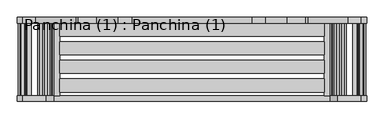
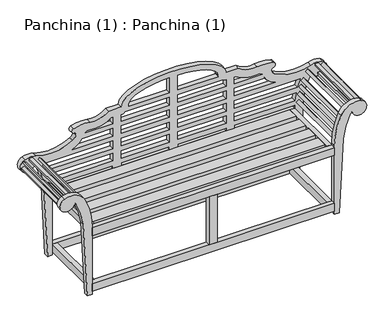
"""IFC4 building model written with IfcOpenShell, lengths in millimetres: furniture geometry, Panchina (1) : Panchina (1)."""

from ifc_helpers import new_model, si_unit, point, frame, frame_2d, origin, place, context, project, spatial, polyline, circle_curve, ellipse_curve, trimmed, segment, composite_curve, outline, extrude, source, transform, mapped, element, save
from ifc_brep_helpers import plane_surface, cylinder_surface, revolved_surface, extruded_surface, advanced_brep


def panchina_1_panchina_1_e30cd0fb(model_context):
    return source(origin(), model_context, "Body", "SolidModel", [
        advanced_brep(
        [(793.8601856, 390.0, 448.2453923), (793.8601856, 420.0, 448.2453923), (793.8601856, 420.0, 469.4749874), (793.8601856, 390.0, 469.4749874), (-793.8601856, 420.0, 448.2453923), (-793.8601856, 390.0, 448.2453923), (-793.8601856, 390.0, 469.4749874), (-793.8601856, 420.0, 469.4749874), (-371.0159047, 390.0, 430.0), (-321.0159047, 390.0, 430.0), (-321.0159047, 390.0, 448.2453923), (-25.0, 390.0, 448.2453923), (-25.0, 390.0, 430.0), (25.0, 390.0, 430.0), (25.0, 390.0, 448.2453923), (321.0159047, 390.0, 448.2453923), (321.0159047, 390.0, 430.0), (371.0159047, 390.0, 430.0), (371.0159047, 390.0, 448.2453923), (740.0804812, 390.0, 448.2453923), (740.0, 390.0, 440.0), (740.0, 390.0, 0.0), (769.2560441, 390.0, 0.0), (792.7475897, 390.0, 448.2453923), (836.8567585, 390.0, 614.4348617), (852.3402891, 390.0, 614.093414), (918.8909899, 390.0, 597.3326879), (907.4603107, 390.0, 674.4897724), (838.858595, 390.0, 674.5437109), (616.3289215, 390.0, 697.0775652), (597.5817172, 390.0, 725.1983716), (608.0495383, 390.0, 739.436241), (610.3405663, 390.0, 770.9960176), (510.0357041, 390.0, 778.0597403), (396.0159047, 390.0, 809.6116281), (321.0159047, 390.0, 809.6116281), (-321.0159047, 390.0, 809.6116281), (-396.0159047, 390.0, 809.6116281), (-510.0357041, 390.0, 778.0597403), (-610.3405663, 390.0, 770.9960176), (-608.0495383, 390.0, 739.436241), (-597.5817172, 390.0, 725.1983716), (-616.3289215, 390.0, 697.0775652), (-838.858595, 390.0, 674.5437109), (-907.4603107, 390.0, 674.4897724), (-918.8909899, 390.0, 597.3326879), (-852.3402891, 390.0, 614.093414), (-836.8567585, 390.0, 614.4348617), (-792.7475897, 390.0, 448.2453923), (-769.2560441, 390.0, 0.0), (-740.0, 390.0, 0.0), (-740.0, 390.0, 440.0), (-740.0804812, 390.0, 448.2453923), (-371.0159047, 390.0, 448.2453923), (-620.4793219, 390.0, 638.2453923), (-590.3558182, 390.0, 654.3528896), (-558.0560611, 390.0, 688.2453923), (-371.0159047, 390.0, 688.2453923), (-371.0159047, 390.0, 638.2453923), (-25.0, 390.0, 638.2453923), (-321.0159047, 390.0, 638.2453923), (-321.0159047, 390.0, 688.2453923), (-25.0, 390.0, 688.2453923), (321.0159047, 390.0, 638.2453923), (25.0, 390.0, 638.2453923), (25.0, 390.0, 688.2453923), (321.0159047, 390.0, 688.2453923), (590.3558182, 390.0, 654.3528896), (620.4793219, 390.0, 638.2453923), (371.0159047, 390.0, 638.2453923), (371.0159047, 390.0, 688.2453923), (556.8264563, 390.0, 688.2453923), (556.8264563, 390.0, 690.5877509), (756.887606, 390.0, 558.2453923), (371.0159047, 390.0, 558.2453923), (371.0159047, 390.0, 608.2453923), (774.9515352, 390.0, 608.2453923), (321.0159047, 390.0, 558.2453923), (25.0, 390.0, 558.2453923), (25.0, 390.0, 608.2453923), (321.0159047, 390.0, 608.2453923), (-25.0, 390.0, 558.2453923), (-321.0159047, 390.0, 558.2453923), (-321.0159047, 390.0, 608.2453923), (-25.0, 390.0, 608.2453923), (-371.0159047, 390.0, 558.2453923), (-756.887606, 390.0, 558.2453923), (-774.9515352, 390.0, 608.2453923), (-371.0159047, 390.0, 608.2453923), (741.734928, 390.0, 478.2453923), (371.0159047, 390.0, 478.2453923), (371.0159047, 390.0, 528.2453923), (749.3203531, 390.0, 528.2453923), (321.0159047, 390.0, 478.2453923), (25.0, 390.0, 478.2453923), (25.0, 390.0, 528.2453923), (321.0159047, 390.0, 528.2453923), (-25.0, 390.0, 478.2453923), (-321.0159047, 390.0, 478.2453923), (-321.0159047, 390.0, 528.2453923), (-25.0, 390.0, 528.2453923), (-371.0159047, 390.0, 478.2453923), (-741.734928, 390.0, 478.2453923), (-749.3203531, 390.0, 528.2453923), (-371.0159047, 390.0, 528.2453923), (371.0159047, 390.0, 759.6116281), (379.391863, 390.0, 759.6116281), (509.9829469, 390.0, 727.6014924), (540.591796, 390.0, 718.2453923), (371.0159047, 390.0, 718.2453923), (25.0, 390.0, 718.2453923), (25.0, 390.0, 768.2453923), (292.9297063, 390.0, 768.2453923), (321.0159047, 390.0, 759.6116281), (321.0159047, 390.0, 718.2453923), (25.0, 390.0, 894.2092304), (271.0159047, 390.0, 809.6116281), (272.3249539, 390.0, 798.2453923), (25.0, 390.0, 798.2453923), (-321.0159047, 390.0, 759.6116281), (-293.8294647, 390.0, 768.2453923), (-25.0, 390.0, 768.2453923), (-25.0, 390.0, 718.2453923), (-321.0159047, 390.0, 718.2453923), (-273.9840953, 390.0, 809.6116281), (-25.0, 390.0, 894.2945325), (-25.0, 390.0, 798.2453923), (-274.6664568, 390.0, 798.2453923), (-509.9829469, 390.0, 727.6014924), (-379.391863, 390.0, 759.6116281), (-371.0159047, 390.0, 759.6116281), (-371.0159047, 390.0, 718.2453923), (-540.591796, 390.0, 718.2453923), (792.7475897, 420.0, 448.2453923), (-792.7475897, 420.0, 448.2453923), (-740.0804812, 420.0, 448.2453923), (-371.0159047, 420.0, 448.2453923), (-321.0159047, 420.0, 448.2453923), (-25.0, 420.0, 448.2453923), (25.0, 420.0, 448.2453923), (321.0159047, 420.0, 448.2453923), (371.0159047, 420.0, 448.2453923), (740.0804812, 420.0, 448.2453923), (-740.0, 420.0, 440.0), (-740.0, 420.0, 0.0), (-769.2560441, 420.0, 0.0), (-836.8567585, 420.0, 614.4348617), (-852.3402891, 420.0, 614.093414), (-918.8909899, 420.0, 597.3326879), (-907.4603107, 420.0, 674.4897724), (-838.858595, 420.0, 674.5437109), (-616.3289215, 420.0, 697.0775652), (-597.5817172, 420.0, 725.1983716), (-608.0495383, 420.0, 739.436241), (-610.3405663, 420.0, 770.9960176), (-510.0357041, 420.0, 778.0597403), (-396.0159047, 420.0, 809.6116281), (-321.0159047, 420.0, 809.6116281), (321.0159047, 420.0, 809.6116281), (396.0159047, 420.0, 809.6116281), (510.0357041, 420.0, 778.0597403), (610.3405663, 420.0, 770.9960176), (608.0495383, 420.0, 739.436241), (597.5817172, 420.0, 725.1983716), (616.3289215, 420.0, 697.0775652), (838.858595, 420.0, 674.5437109), (907.4603107, 420.0, 674.4897724), (918.8909899, 420.0, 597.3326879), (852.3402891, 420.0, 614.093414), (836.8567585, 420.0, 614.4348617), (769.2560441, 420.0, 0.0), (740.0, 420.0, 0.0), (740.0, 420.0, 440.0), (371.0159047, 420.0, 430.0), (321.0159047, 420.0, 430.0), (25.0, 420.0, 430.0), (-25.0, 420.0, 430.0), (-321.0159047, 420.0, 430.0), (-371.0159047, 420.0, 430.0), (620.4793219, 420.0, 638.2453923), (590.3558182, 420.0, 654.3528896), (556.8264563, 420.0, 690.5877509), (556.8264563, 420.0, 688.2453923), (371.0159047, 420.0, 688.2453923), (371.0159047, 420.0, 638.2453923), (25.0, 420.0, 638.2453923), (321.0159047, 420.0, 638.2453923), (321.0159047, 420.0, 688.2453923), (25.0, 420.0, 688.2453923), (-321.0159047, 420.0, 638.2453923), (-25.0, 420.0, 638.2453923), (-25.0, 420.0, 688.2453923), (-321.0159047, 420.0, 688.2453923), (-590.3558182, 420.0, 654.3528896), (-620.4793219, 420.0, 638.2453923), (-371.0159047, 420.0, 638.2453923), (-371.0159047, 420.0, 688.2453923), (-558.0560611, 420.0, 688.2453923), (371.0159047, 420.0, 558.2453923), (756.887606, 420.0, 558.2453923), (774.9515352, 420.0, 608.2453923), (371.0159047, 420.0, 608.2453923), (25.0, 420.0, 558.2453923), (321.0159047, 420.0, 558.2453923), (321.0159047, 420.0, 608.2453923), (25.0, 420.0, 608.2453923), (-321.0159047, 420.0, 558.2453923), (-25.0, 420.0, 558.2453923), (-25.0, 420.0, 608.2453923), (-321.0159047, 420.0, 608.2453923), (-756.887606, 420.0, 558.2453923), (-371.0159047, 420.0, 558.2453923), (-371.0159047, 420.0, 608.2453923), (-774.9515352, 420.0, 608.2453923), (371.0159047, 420.0, 478.2453923), (741.734928, 420.0, 478.2453923), (749.3203531, 420.0, 528.2453923), (371.0159047, 420.0, 528.2453923), (25.0, 420.0, 478.2453923), (321.0159047, 420.0, 478.2453923), (321.0159047, 420.0, 528.2453923), (25.0, 420.0, 528.2453923), (-321.0159047, 420.0, 478.2453923), (-25.0, 420.0, 478.2453923), (-25.0, 420.0, 528.2453923), (-321.0159047, 420.0, 528.2453923), (-741.734928, 420.0, 478.2453923), (-371.0159047, 420.0, 478.2453923), (-371.0159047, 420.0, 528.2453923), (-749.3203531, 420.0, 528.2453923), (-371.0159047, 420.0, 759.6116281), (-379.391863, 420.0, 759.6116281), (-509.9829469, 420.0, 727.6014924), (-540.591796, 420.0, 718.2453923), (-371.0159047, 420.0, 718.2453923), (-25.0, 420.0, 718.2453923), (-25.0, 420.0, 768.2453923), (-293.8294647, 420.0, 768.2453923), (-321.0159047, 420.0, 759.6116281), (-321.0159047, 420.0, 718.2453923), (-25.0, 420.0, 894.2945325), (-273.9840953, 420.0, 809.6116281), (-274.6664568, 420.0, 798.2453923), (-25.0, 420.0, 798.2453923), (321.0159047, 420.0, 759.6116281), (292.9297063, 420.0, 768.2453923), (25.0, 420.0, 768.2453923), (25.0, 420.0, 718.2453923), (321.0159047, 420.0, 718.2453923), (271.0159047, 420.0, 809.6116281), (25.0, 420.0, 894.2092304), (25.0, 420.0, 798.2453923), (272.3249539, 420.0, 798.2453923), (509.9829469, 420.0, 727.6014924), (379.391863, 420.0, 759.6116281), (371.0159047, 420.0, 759.6116281), (371.0159047, 420.0, 718.2453923), (540.591796, 420.0, 718.2453923)],
        [
            (0, 1),
            (1, 2),
            (2, 3),
            (3, 0),
            (4, 5),
            (5, 6),
            (6, 7),
            (7, 4),
            (8, 9),
            (9, 10),
            (10, 11),
            (11, 12),
            (12, 13),
            (13, 14),
            (14, 15),
            (15, 16),
            (16, 17),
            (17, 18),
            (18, 19),
            (19, 20, circle_curve(frame((1162.4152337, 390.0, 440.0), z_axis=(0.0, -1.0, 0.0), x_axis=(1.0, 0.0, 0.0)), 422.4152337)),
            (20, 21),
            (21, 22),
            (22, 23),
            (23, 0),
            (3, 24, circle_curve(frame((1186.2285384, 390.0, 431.9510913), z_axis=(0.0, 1.0, 0.0), x_axis=(-1.0, 0.0, 0.0)), 394.1585557)),
            (24, 25, circle_curve(frame((844.5140888, 390.0, 610.4352871), z_axis=(0.0, 1.0, 0.0), x_axis=(1.0, 0.0, 0.0)), 8.6389412)),
            (25, 26, circle_curve(frame((892.4476381, 390.0, 632.8404135), z_axis=(0.0, -1.0, 0.0), x_axis=(-1.0, 0.0, 0.0)), 44.2724455)),
            (26, 27, circle_curve(frame((892.4476381, 390.0, 632.8404135), z_axis=(0.0, -1.0, 0.0), x_axis=(-1.0, 0.0, 0.0)), 44.2724455)),
            (27, 28, circle_curve(frame((873.0844478, 390.0, 579.1214999), z_axis=(0.0, -1.0, 0.0), x_axis=(-1.0, 0.0, 0.0)), 101.3745893)),
            (28, 29, circle_curve(frame((751.2005313, 390.0, 918.9357586), z_axis=(0.0, 1.0, 0.0), x_axis=(-1.0, 0.0, 0.0)), 259.637072)),
            (29, 30, circle_curve(frame((637.0890584, 390.0, 731.2271278), z_axis=(0.0, 1.0, 0.0), x_axis=(-1.0, 0.0, 0.0)), 39.9646833)),
            (30, 31, circle_curve(frame((609.9345625, 390.0, 727.0833957), z_axis=(0.0, 1.0, 0.0), x_axis=(-1.0, 0.0, 0.0)), 12.4958434)),
            (31, 32, circle_curve(frame((605.6017477, 390.0, 755.4769791), z_axis=(0.0, -1.0, 0.0), x_axis=(-1.0, 0.0, 0.0)), 16.2264278)),
            (32, 33, circle_curve(frame((544.8313494, 390.0, 556.461521), z_axis=(0.0, -1.0, 0.0), x_axis=(-1.0, 0.0, 0.0)), 224.3134141)),
            (33, 34, circle_curve(frame((487.8169484, 390.0, 919.5612602), z_axis=(0.0, 1.0, 0.0), x_axis=(-1.0, 0.0, 0.0)), 143.2353072)),
            (34, 35),
            (35, 36, ellipse_curve(frame((0.0, 390.0, 809.6116281), z_axis=(0.0, -1.0, 0.0), x_axis=(1.0, 0.0, 0.0)), 321.0159047, 120.0)),
            (36, 37),
            (37, 38, circle_curve(frame((-487.8169484, 390.0, 919.5612602), z_axis=(0.0, 1.0, 0.0), x_axis=(1.0, 0.0, 0.0)), 143.2353072)),
            (38, 39, circle_curve(frame((-544.8313494, 390.0, 556.461521), z_axis=(0.0, -1.0, 0.0), x_axis=(1.0, 0.0, 0.0)), 224.3134141)),
            (39, 40, circle_curve(frame((-605.6017477, 390.0, 755.4769791), z_axis=(0.0, -1.0, 0.0), x_axis=(1.0, 0.0, 0.0)), 16.2264278)),
            (40, 41, circle_curve(frame((-609.9345625, 390.0, 727.0833957), z_axis=(0.0, 1.0, 0.0), x_axis=(1.0, 0.0, 0.0)), 12.4958434)),
            (41, 42, circle_curve(frame((-637.0890584, 390.0, 731.2271278), z_axis=(0.0, 1.0, 0.0), x_axis=(1.0, 0.0, 0.0)), 39.9646833)),
            (42, 43, circle_curve(frame((-751.2005313, 390.0, 918.9357586), z_axis=(0.0, 1.0, 0.0), x_axis=(1.0, 0.0, 0.0)), 259.637072)),
            (43, 44, circle_curve(frame((-873.0844478, 390.0, 579.1214999), z_axis=(0.0, -1.0, 0.0), x_axis=(1.0, 0.0, 0.0)), 101.3745893)),
            (44, 45, circle_curve(frame((-892.4476381, 390.0, 632.8404135), z_axis=(0.0, -1.0, 0.0), x_axis=(1.0, 0.0, 0.0)), 44.2724455)),
            (45, 46, circle_curve(frame((-892.4476381, 390.0, 632.8404135), z_axis=(0.0, -1.0, 0.0), x_axis=(1.0, 0.0, 0.0)), 44.2724455)),
            (46, 47, circle_curve(frame((-844.5140888, 390.0, 610.4352871), z_axis=(0.0, 1.0, 0.0), x_axis=(1.0, 0.0, 0.0)), 8.6389412)),
            (47, 6, circle_curve(frame((-1186.2285384, 390.0, 431.9510913), z_axis=(0.0, 1.0, 0.0), x_axis=(1.0, 0.0, 0.0)), 394.1585557)),
            (5, 48),
            (48, 49),
            (49, 50),
            (50, 51),
            (51, 52, circle_curve(frame((-1162.4152337, 390.0, 440.0), z_axis=(0.0, -1.0, 0.0), x_axis=(1.0, 0.0, 0.0)), 422.4152337)),
            (52, 53),
            (53, 8),
            (54, 55, circle_curve(frame((-751.2005313, 390.0, 918.9357586), z_axis=(0.0, -1.0, 0.0), x_axis=(1.0, 0.0, 0.0)), 309.637072)),
            (55, 56, circle_curve(frame((-637.0890584, 390.0, 731.2271278), z_axis=(0.0, -1.0, 0.0), x_axis=(1.0, 0.0, 0.0)), 89.9646833)),
            (56, 57),
            (57, 58),
            (58, 54),
            (59, 60),
            (60, 61),
            (61, 62),
            (62, 59),
            (63, 64),
            (64, 65),
            (65, 66),
            (66, 63),
            (67, 68, circle_curve(frame((751.2005313, 390.0, 918.9357586), z_axis=(0.0, -1.0, 0.0), x_axis=(-1.0, 0.0, 0.0)), 309.637072)),
            (68, 69),
            (69, 70),
            (70, 71),
            (71, 72),
            (72, 67, circle_curve(frame((637.0890584, 390.0, 731.2271278), z_axis=(0.0, -1.0, 0.0), x_axis=(-1.0, 0.0, 0.0)), 89.9646833)),
            (73, 74),
            (74, 75),
            (75, 76),
            (76, 73, circle_curve(frame((1162.4152337, 390.0, 440.0), z_axis=(0.0, -1.0, 0.0), x_axis=(1.0, 0.0, 0.0)), 422.4152337)),
            (77, 78),
            (78, 79),
            (79, 80),
            (80, 77),
            (81, 82),
            (82, 83),
            (83, 84),
            (84, 81),
            (85, 86),
            (86, 87, circle_curve(frame((-1162.4152337, 390.0, 440.0), z_axis=(0.0, -1.0, 0.0), x_axis=(1.0, 0.0, 0.0)), 422.4152337)),
            (87, 88),
            (88, 85),
            (89, 90),
            (90, 91),
            (91, 92),
            (92, 89, circle_curve(frame((1162.4152337, 390.0, 440.0), z_axis=(0.0, -1.0, 0.0), x_axis=(1.0, 0.0, 0.0)), 422.4152337)),
            (93, 94),
            (94, 95),
            (95, 96),
            (96, 93),
            (97, 98),
            (98, 99),
            (99, 100),
            (100, 97),
            (101, 102),
            (102, 103, circle_curve(frame((-1162.4152337, 390.0, 440.0), z_axis=(0.0, -1.0, 0.0), x_axis=(1.0, 0.0, 0.0)), 422.4152337)),
            (103, 104),
            (104, 101),
            (105, 106),
            (106, 107, circle_curve(frame((487.8169484, 390.0, 919.5612602), z_axis=(0.0, -1.0, 0.0), x_axis=(-1.0, 0.0, 0.0)), 193.2353072)),
            (107, 108, circle_curve(frame((514.571342, 390.0, 687.865531), z_axis=(0.0, 1.0, 0.0), x_axis=(-1.0, 0.0, 0.0)), 40.0)),
            (108, 109),
            (109, 105),
            (110, 111),
            (111, 112),
            (112, 113, circle_curve(frame((321.0159047, 390.0, 809.6116281), z_axis=(0.0, -1.0, 0.0), x_axis=(1.0, 0.0, 0.0)), 50.0)),
            (113, 114),
            (114, 110),
            (115, 116, ellipse_curve(frame((-1.4840953, 390.0, 809.6116281), z_axis=(0.0, 1.0, 0.0), x_axis=(1.0, 0.0, 0.0)), 272.5, 85.0)),
            (116, 117, circle_curve(frame((321.0159047, 390.0, 809.6116281), z_axis=(0.0, -1.0, 0.0), x_axis=(1.0, 0.0, 0.0)), 50.0)),
            (117, 118),
            (118, 115),
            (119, 120, circle_curve(frame((-321.0159047, 390.0, 806.731539), z_axis=(0.0, -1.0, 0.0), x_axis=(1.0, 0.0, 0.0)), 47.1199109)),
            (120, 121),
            (121, 122),
            (122, 123),
            (123, 119),
            (124, 125, ellipse_curve(frame((-1.4840953, 390.0, 809.6116281), z_axis=(0.0, 1.0, 0.0), x_axis=(1.0, 0.0, 0.0)), 272.5, 85.0)),
            (125, 126),
            (126, 127),
            (127, 124, circle_curve(frame((-321.0159047, 390.0, 806.731539), z_axis=(0.0, -1.0, 0.0), x_axis=(1.0, 0.0, 0.0)), 47.1199109)),
            (128, 129, circle_curve(frame((-487.8169484, 390.0, 919.5612602), z_axis=(0.0, -1.0, 0.0), x_axis=(1.0, 0.0, 0.0)), 193.2353072)),
            (129, 130),
            (130, 131),
            (131, 132),
            (132, 128, circle_curve(frame((-514.571342, 390.0, 687.865531), z_axis=(0.0, 1.0, 0.0), x_axis=(1.0, 0.0, 0.0)), 40.0)),
            (23, 133),
            (133, 1),
            (4, 134),
            (134, 48),
            (52, 135),
            (135, 136),
            (136, 53),
            (10, 137),
            (137, 138),
            (138, 11),
            (14, 139),
            (139, 140),
            (140, 15),
            (18, 141),
            (141, 142),
            (142, 19),
            (143, 144),
            (144, 145),
            (145, 134),
            (7, 146, circle_curve(frame((-1186.2285384, 420.0, 431.9510913), z_axis=(0.0, -1.0, 0.0), x_axis=(1.0, 0.0, 0.0)), 394.1585557)),
            (146, 147, circle_curve(frame((-844.5140888, 420.0, 610.4352871), z_axis=(0.0, -1.0, 0.0), x_axis=(1.0, 0.0, 0.0)), 8.6389412)),
            (147, 148, circle_curve(frame((-892.4476381, 420.0, 632.8404135), z_axis=(0.0, 1.0, 0.0), x_axis=(1.0, 0.0, 0.0)), 44.2724455)),
            (148, 149, circle_curve(frame((-892.4476381, 420.0, 632.8404135), z_axis=(0.0, 1.0, 0.0), x_axis=(1.0, 0.0, 0.0)), 44.2724455)),
            (149, 150, circle_curve(frame((-873.0844478, 420.0, 579.1214999), z_axis=(0.0, 1.0, 0.0), x_axis=(1.0, 0.0, 0.0)), 101.3745893)),
            (150, 151, circle_curve(frame((-751.2005313, 420.0, 918.9357586), z_axis=(0.0, -1.0, 0.0), x_axis=(1.0, 0.0, 0.0)), 259.637072)),
            (151, 152, circle_curve(frame((-637.0890584, 420.0, 731.2271278), z_axis=(0.0, -1.0, 0.0), x_axis=(1.0, 0.0, 0.0)), 39.9646833)),
            (152, 153, circle_curve(frame((-609.9345625, 420.0, 727.0833957), z_axis=(0.0, -1.0, 0.0), x_axis=(1.0, 0.0, 0.0)), 12.4958434)),
            (153, 154, circle_curve(frame((-605.6017477, 420.0, 755.4769791), z_axis=(0.0, 1.0, 0.0), x_axis=(1.0, 0.0, 0.0)), 16.2264278)),
            (154, 155, circle_curve(frame((-544.8313494, 420.0, 556.461521), z_axis=(0.0, 1.0, 0.0), x_axis=(1.0, 0.0, 0.0)), 224.3134141)),
            (155, 156, circle_curve(frame((-487.8169484, 420.0, 919.5612602), z_axis=(0.0, -1.0, 0.0), x_axis=(1.0, 0.0, 0.0)), 143.2353072)),
            (156, 157),
            (157, 158, ellipse_curve(frame((0.0, 420.0, 809.6116281), z_axis=(0.0, 1.0, 0.0), x_axis=(1.0, 0.0, 0.0)), 321.0159047, 120.0)),
            (158, 159),
            (159, 160, circle_curve(frame((487.8169484, 420.0, 919.5612602), z_axis=(0.0, -1.0, 0.0), x_axis=(-1.0, 0.0, 0.0)), 143.2353072)),
            (160, 161, circle_curve(frame((544.8313494, 420.0, 556.461521), z_axis=(0.0, 1.0, 0.0), x_axis=(-1.0, 0.0, 0.0)), 224.3134141)),
            (161, 162, circle_curve(frame((605.6017477, 420.0, 755.4769791), z_axis=(0.0, 1.0, 0.0), x_axis=(-1.0, 0.0, 0.0)), 16.2264278)),
            (162, 163, circle_curve(frame((609.9345625, 420.0, 727.0833957), z_axis=(0.0, -1.0, 0.0), x_axis=(-1.0, 0.0, 0.0)), 12.4958434)),
            (163, 164, circle_curve(frame((637.0890584, 420.0, 731.2271278), z_axis=(0.0, -1.0, 0.0), x_axis=(-1.0, 0.0, 0.0)), 39.9646833)),
            (164, 165, circle_curve(frame((751.2005313, 420.0, 918.9357586), z_axis=(0.0, -1.0, 0.0), x_axis=(-1.0, 0.0, 0.0)), 259.637072)),
            (165, 166, circle_curve(frame((873.0844478, 420.0, 579.1214999), z_axis=(0.0, 1.0, 0.0), x_axis=(-1.0, 0.0, 0.0)), 101.3745893)),
            (166, 167, circle_curve(frame((892.4476381, 420.0, 632.8404135), z_axis=(0.0, 1.0, 0.0), x_axis=(-1.0, 0.0, 0.0)), 44.2724455)),
            (167, 168, circle_curve(frame((892.4476381, 420.0, 632.8404135), z_axis=(0.0, 1.0, 0.0), x_axis=(-1.0, 0.0, 0.0)), 44.2724455)),
            (168, 169, circle_curve(frame((844.5140888, 420.0, 610.4352871), z_axis=(0.0, -1.0, 0.0), x_axis=(1.0, 0.0, 0.0)), 8.6389412)),
            (169, 2, circle_curve(frame((1186.2285384, 420.0, 431.9510913), z_axis=(0.0, -1.0, 0.0), x_axis=(-1.0, 0.0, 0.0)), 394.1585557)),
            (133, 170),
            (170, 171),
            (171, 172),
            (172, 142, circle_curve(frame((1162.4152337, 420.0, 440.0), z_axis=(0.0, 1.0, 0.0), x_axis=(1.0, 0.0, 0.0)), 422.4152337)),
            (141, 173),
            (173, 174),
            (174, 140),
            (139, 175),
            (175, 176),
            (176, 138),
            (137, 177),
            (177, 178),
            (178, 136),
            (135, 143, circle_curve(frame((-1162.4152337, 420.0, 440.0), z_axis=(0.0, 1.0, 0.0), x_axis=(1.0, 0.0, 0.0)), 422.4152337)),
            (179, 180, circle_curve(frame((751.2005313, 420.0, 918.9357586), z_axis=(0.0, 1.0, 0.0), x_axis=(-1.0, 0.0, 0.0)), 309.637072)),
            (180, 181, circle_curve(frame((637.0890584, 420.0, 731.2271278), z_axis=(0.0, 1.0, 0.0), x_axis=(-1.0, 0.0, 0.0)), 89.9646833)),
            (181, 182),
            (182, 183),
            (183, 184),
            (184, 179),
            (185, 186),
            (186, 187),
            (187, 188),
            (188, 185),
            (189, 190),
            (190, 191),
            (191, 192),
            (192, 189),
            (193, 194, circle_curve(frame((-751.2005313, 420.0, 918.9357586), z_axis=(0.0, 1.0, 0.0), x_axis=(1.0, 0.0, 0.0)), 309.637072)),
            (194, 195),
            (195, 196),
            (196, 197),
            (197, 193, circle_curve(frame((-637.0890584, 420.0, 731.2271278), z_axis=(0.0, 1.0, 0.0), x_axis=(1.0, 0.0, 0.0)), 89.9646833)),
            (198, 199),
            (199, 200, circle_curve(frame((1162.4152337, 420.0, 440.0), z_axis=(0.0, 1.0, 0.0), x_axis=(1.0, 0.0, 0.0)), 422.4152337)),
            (200, 201),
            (201, 198),
            (202, 203),
            (203, 204),
            (204, 205),
            (205, 202),
            (206, 207),
            (207, 208),
            (208, 209),
            (209, 206),
            (210, 211),
            (211, 212),
            (212, 213),
            (213, 210, circle_curve(frame((-1162.4152337, 420.0, 440.0), z_axis=(0.0, 1.0, 0.0), x_axis=(1.0, 0.0, 0.0)), 422.4152337)),
            (214, 215),
            (215, 216, circle_curve(frame((1162.4152337, 420.0, 440.0), z_axis=(0.0, 1.0, 0.0), x_axis=(1.0, 0.0, 0.0)), 422.4152337)),
            (216, 217),
            (217, 214),
            (218, 219),
            (219, 220),
            (220, 221),
            (221, 218),
            (222, 223),
            (223, 224),
            (224, 225),
            (225, 222),
            (226, 227),
            (227, 228),
            (228, 229),
            (229, 226, circle_curve(frame((-1162.4152337, 420.0, 440.0), z_axis=(0.0, 1.0, 0.0), x_axis=(1.0, 0.0, 0.0)), 422.4152337)),
            (230, 231),
            (231, 232, circle_curve(frame((-487.8169484, 420.0, 919.5612602), z_axis=(0.0, 1.0, 0.0), x_axis=(1.0, 0.0, 0.0)), 193.2353072)),
            (232, 233, circle_curve(frame((-514.571342, 420.0, 687.865531), z_axis=(0.0, -1.0, 0.0), x_axis=(1.0, 0.0, 0.0)), 40.0)),
            (233, 234),
            (234, 230),
            (235, 236),
            (236, 237),
            (237, 238, circle_curve(frame((-321.0159047, 420.0, 806.731539), z_axis=(0.0, 1.0, 0.0), x_axis=(1.0, 0.0, 0.0)), 47.1199109)),
            (238, 239),
            (239, 235),
            (240, 241, ellipse_curve(frame((-1.4840953, 420.0, 809.6116281), z_axis=(0.0, -1.0, 0.0), x_axis=(1.0, 0.0, 0.0)), 272.5, 85.0)),
            (241, 242, circle_curve(frame((-321.0159047, 420.0, 806.731539), z_axis=(0.0, 1.0, 0.0), x_axis=(1.0, 0.0, 0.0)), 47.1199109)),
            (242, 243),
            (243, 240),
            (244, 245, circle_curve(frame((321.0159047, 420.0, 809.6116281), z_axis=(0.0, 1.0, 0.0), x_axis=(1.0, 0.0, 0.0)), 50.0)),
            (245, 246),
            (246, 247),
            (247, 248),
            (248, 244),
            (249, 250, ellipse_curve(frame((-1.4840953, 420.0, 809.6116281), z_axis=(0.0, -1.0, 0.0), x_axis=(1.0, 0.0, 0.0)), 272.5, 85.0)),
            (250, 251),
            (251, 252),
            (252, 249, circle_curve(frame((321.0159047, 420.0, 809.6116281), z_axis=(0.0, 1.0, 0.0), x_axis=(1.0, 0.0, 0.0)), 50.0)),
            (253, 254, circle_curve(frame((487.8169484, 420.0, 919.5612602), z_axis=(0.0, 1.0, 0.0), x_axis=(-1.0, 0.0, 0.0)), 193.2353072)),
            (254, 255),
            (255, 256),
            (256, 257),
            (257, 253, circle_curve(frame((514.571342, 420.0, 687.865531), z_axis=(0.0, -1.0, 0.0), x_axis=(-1.0, 0.0, 0.0)), 40.0)),
            (101, 227),
            (226, 102),
            (97, 223),
            (222, 98),
            (93, 219),
            (218, 94),
            (89, 215),
            (214, 90),
            (103, 229),
            (228, 104),
            (99, 225),
            (224, 100),
            (95, 221),
            (220, 96),
            (91, 217),
            (216, 92),
            (85, 211),
            (210, 86),
            (81, 207),
            (206, 82),
            (77, 203),
            (202, 78),
            (73, 199),
            (198, 74),
            (51, 143),
            (213, 87),
            (193, 55),
            (54, 194),
            (197, 56),
            (232, 128),
            (132, 233),
            (231, 129),
            (230, 130),
            (234, 131),
            (178, 8),
            (88, 212),
            (195, 58),
            (57, 196),
            (177, 9),
            (238, 119),
            (123, 239),
            (209, 83),
            (60, 189),
            (192, 61),
            (237, 120),
            (241, 124),
            (127, 242),
            (240, 125),
            (243, 126),
            (176, 12),
            (84, 208),
            (190, 59),
            (62, 191),
            (235, 122),
            (121, 236),
            (175, 13),
            (250, 115),
            (118, 251),
            (205, 79),
            (64, 185),
            (188, 65),
            (110, 247),
            (246, 111),
            (249, 116),
            (252, 117),
            (244, 113),
            (112, 245),
            (248, 114),
            (174, 16),
            (80, 204),
            (186, 63),
            (66, 187),
            (173, 17),
            (255, 105),
            (109, 256),
            (201, 75),
            (69, 184),
            (183, 70),
            (254, 106),
            (253, 107),
            (257, 108),
            (180, 67),
            (72, 181),
            (179, 68),
            (172, 20),
            (76, 200),
            (171, 21),
            (170, 22),
            (169, 24),
            (168, 25),
            (167, 26),
            (166, 27),
            (165, 28),
            (164, 29),
            (163, 30),
            (162, 31),
            (161, 32),
            (160, 33),
            (159, 34),
            (158, 35),
            (157, 36),
            (156, 37),
            (155, 38),
            (154, 39),
            (153, 40),
            (152, 41),
            (151, 42),
            (150, 43),
            (149, 44),
            (148, 45),
            (147, 46),
            (146, 47),
            (145, 49),
            (144, 50),
            (71, 182),
        ],
        [
            plane_surface(frame((793.8601856, 390.0, 434.805814), z_axis=(1.0, 0.0, 0.0), x_axis=(0.0, 0.0, -1.0))),
            plane_surface(frame((-793.8601856, 390.0, 434.805814), z_axis=(-1.0, 0.0, 0.0), x_axis=(0.0, 0.0, 1.0))),
            plane_surface(frame((793.8601856, 390.0, 478.2453923), z_axis=(0.0, -1.0, 0.0), x_axis=(-1.0, 0.0, 0.0))),
            plane_surface(frame((793.8601856, 390.0, 448.2453923), z_axis=(0.0, 0.0, -1.0), x_axis=(-1.0, 0.0, 0.0))),
            plane_surface(frame((793.8601856, 420.0, 448.2453923), z_axis=(0.0, 1.0, 0.0), x_axis=(-1.0, 0.0, 0.0))),
            plane_surface(frame((793.8601856, 420.0, 478.2453923), z_axis=(0.0, 0.0, 1.0), x_axis=(-1.0, 0.0, 0.0))),
            plane_surface(frame((793.8601856, 390.0, 528.2453923), z_axis=(0.0, 0.0, -1.0), x_axis=(-1.0, 0.0, 0.0))),
            plane_surface(frame((793.8601856, 420.0, 558.2453923), z_axis=(0.0, 0.0, 1.0), x_axis=(-1.0, 0.0, 0.0))),
            cylinder_surface(frame((-1162.4152337, 420.0, 440.0), z_axis=(0.0, -1.0, 0.0), x_axis=(1.0, 0.0, 0.0)), 422.4152337),
            cylinder_surface(frame((-751.2005313, 420.0, 918.9357586), z_axis=(0.0, -1.0, 0.0), x_axis=(1.0, 0.0, 0.0)), 309.637072),
            cylinder_surface(frame((-637.0890584, 420.0, 731.2271278), z_axis=(0.0, -1.0, 0.0), x_axis=(1.0, 0.0, 0.0)), 89.9646833),
            revolved_surface(polyline([(-474.57134199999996, 420.0, 687.865531), (-474.57134199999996, 390.0, 687.865531)]), (-514.571342, 420.0, 687.865531), (0.0, 1.0, 0.0)),
            cylinder_surface(frame((-487.8169484, 420.0, 919.5612602), z_axis=(0.0, -1.0, 0.0), x_axis=(1.0, 0.0, 0.0)), 193.2353072),
            plane_surface(frame((-379.391863, 390.0, 759.6116281), z_axis=(0.0, 0.0, -1.0), x_axis=(0.0, 1.0, 0.0))),
            plane_surface(frame((-371.0159047, 390.0, 759.6116281), z_axis=(-1.0, 0.0, 0.0), x_axis=(0.0, 1.0, 0.0))),
            plane_surface(frame((-371.0159047, 390.0, 430.0), z_axis=(0.0, 0.0, -1.0), x_axis=(0.0, 1.0, 0.0))),
            plane_surface(frame((-321.0159047, 390.0, 430.0), z_axis=(1.0, 0.0, 0.0), x_axis=(0.0, 1.0, 0.0))),
            cylinder_surface(frame((-321.0159047, 420.0, 806.731539), z_axis=(0.0, -1.0, 0.0), x_axis=(1.0, 0.0, 0.0)), 47.1199109),
            extruded_surface(trimmed(ellipse_curve(frame((-1.4840953, 450.0, 809.6116281), z_axis=(0.0, 1.0, 0.0), x_axis=(1.0, 0.0, 0.0)), 272.5, 85.0), [point((-273.9840953, 450.0, 809.6116281))], [point((-25.0, 450.0, 894.2945325))], True, "CARTESIAN"), (0.0, -30.0, 0.0), 30.0),
            plane_surface(frame((-25.0, 390.0, 894.2945325), z_axis=(-1.0, 0.0, 0.0), x_axis=(0.0, 1.0, 0.0))),
            plane_surface(frame((-25.0, 390.0, 430.0), z_axis=(0.0, 0.0, -1.0), x_axis=(0.0, 1.0, 0.0))),
            plane_surface(frame((25.0, 390.0, 430.0), z_axis=(1.0, 0.0, 0.0), x_axis=(0.0, 1.0, 0.0))),
            extruded_surface(trimmed(ellipse_curve(frame((-1.4840953, 450.0, 809.6116281), z_axis=(0.0, 1.0, 0.0), x_axis=(1.0, 0.0, 0.0)), 272.5, 85.0), [point((25.0, 450.0, 894.2092304))], [point((271.0159047, 450.0, 809.6116281))], True, "CARTESIAN"), (0.0, -30.0, 0.0), 30.0),
            cylinder_surface(frame((321.0159047, 420.0, 809.6116281), z_axis=(0.0, -1.0, 0.0), x_axis=(1.0, 0.0, 0.0)), 50.0),
            plane_surface(frame((321.0159047, 390.0, 759.6116281), z_axis=(-1.0, 0.0, 0.0), x_axis=(0.0, 1.0, 0.0))),
            plane_surface(frame((321.0159047, 390.0, 430.0), z_axis=(0.0, 0.0, -1.0), x_axis=(0.0, 1.0, 0.0))),
            plane_surface(frame((371.0159047, 390.0, 430.0), z_axis=(1.0, 0.0, 0.0), x_axis=(0.0, 1.0, 0.0))),
            plane_surface(frame((371.0159047, 390.0, 759.6116281), z_axis=(0.0, 0.0, -1.0), x_axis=(0.0, 1.0, 0.0))),
            cylinder_surface(frame((487.8169484, 420.0, 919.5612602), z_axis=(0.0, -1.0, 0.0), x_axis=(-1.0, 0.0, 0.0)), 193.2353072),
            revolved_surface(polyline([(474.57134199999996, 420.0, 687.865531), (474.57134199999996, 390.0, 687.865531)]), (514.571342, 420.0, 687.865531), (0.0, 1.0, 0.0)),
            cylinder_surface(frame((637.0890584, 420.0, 731.2271278), z_axis=(0.0, -1.0, 0.0), x_axis=(-1.0, 0.0, 0.0)), 89.9646833),
            cylinder_surface(frame((751.2005313, 420.0, 918.9357586), z_axis=(0.0, -1.0, 0.0), x_axis=(-1.0, 0.0, 0.0)), 309.637072),
            cylinder_surface(frame((1162.4152337, 420.0, 440.0), z_axis=(0.0, -1.0, 0.0), x_axis=(1.0, 0.0, 0.0)), 422.4152337),
            plane_surface(frame((740.0, 390.0, 440.0), z_axis=(-1.0, 0.0, 0.0), x_axis=(0.0, 1.0, 0.0))),
            plane_surface(frame((740.0, 390.0, 0.0), z_axis=(0.0, 0.0, -1.0), x_axis=(0.0, 1.0, 0.0))),
            plane_surface(frame((769.2560441, 390.0, 0.0), z_axis=(0.9986295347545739, 0.0, -0.05233595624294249), x_axis=(0.0, 1.0, 0.0))),
            revolved_surface(polyline([(792.0699826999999, 420.0, 431.9510913), (792.0699826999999, 390.0, 431.9510913)]), (1186.2285384, 420.0, 431.9510913), (0.0, 1.0, 0.0)),
            revolved_surface(polyline([(853.15303, 420.0, 610.4352871), (853.15303, 390.0, 610.4352871)]), (844.5140888, 420.0, 610.4352871), (0.0, 1.0, 0.0)),
            cylinder_surface(frame((892.4476381, 420.0, 632.8404135), z_axis=(0.0, -1.0, 0.0), x_axis=(-1.0, 0.0, 0.0)), 44.2724455),
            cylinder_surface(frame((873.0844478, 420.0, 579.1214999), z_axis=(0.0, -1.0, 0.0), x_axis=(-1.0, 0.0, 0.0)), 101.3745893),
            revolved_surface(polyline([(491.5634593, 420.0, 918.9357586), (491.5634593, 390.0, 918.9357586)]), (751.2005313, 420.0, 918.9357586), (0.0, 1.0, 0.0)),
            revolved_surface(polyline([(597.1243751, 420.0, 731.2271278), (597.1243751, 390.0, 731.2271278)]), (637.0890584, 420.0, 731.2271278), (0.0, 1.0, 0.0)),
            revolved_surface(polyline([(597.4387191, 420.0, 727.0833957), (597.4387191, 390.0, 727.0833957)]), (609.9345625, 420.0, 727.0833957), (0.0, 1.0, 0.0)),
            cylinder_surface(frame((605.6017477, 420.0, 755.4769791), z_axis=(0.0, -1.0, 0.0), x_axis=(-1.0, 0.0, 0.0)), 16.2264278),
            cylinder_surface(frame((544.8313494, 420.0, 556.461521), z_axis=(0.0, -1.0, 0.0), x_axis=(-1.0, 0.0, 0.0)), 224.3134141),
            revolved_surface(polyline([(344.58164120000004, 420.0, 919.5612602), (344.58164120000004, 390.0, 919.5612602)]), (487.8169484, 420.0, 919.5612602), (0.0, 1.0, 0.0)),
            plane_surface(frame((396.0159047, 390.0, 809.6116281), z_axis=(0.0, 0.0, 1.0), x_axis=(0.0, 1.0, 0.0))),
            extruded_surface(trimmed(ellipse_curve(frame((0.0, 450.0, 809.6116281), z_axis=(0.0, -1.0, 0.0), x_axis=(1.0, 0.0, 0.0)), 321.0159047, 120.0), [point((321.0159047, 450.0, 809.6116281))], [point((-321.0159047, 450.0, 809.6116281))], True, "CARTESIAN"), (0.0, -30.0, 0.0), 30.0),
            plane_surface(frame((-321.0159047, 390.0, 809.6116281), z_axis=(0.0, 0.0, 1.0), x_axis=(0.0, 1.0, 0.0))),
            revolved_surface(polyline([(-344.58164120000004, 420.0, 919.5612602), (-344.58164120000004, 390.0, 919.5612602)]), (-487.8169484, 420.0, 919.5612602), (0.0, 1.0, 0.0)),
            cylinder_surface(frame((-544.8313494, 420.0, 556.461521), z_axis=(0.0, -1.0, 0.0), x_axis=(1.0, 0.0, 0.0)), 224.3134141),
            cylinder_surface(frame((-605.6017477, 420.0, 755.4769791), z_axis=(0.0, -1.0, 0.0), x_axis=(1.0, 0.0, 0.0)), 16.2264278),
            revolved_surface(polyline([(-597.4387191, 420.0, 727.0833957), (-597.4387191, 390.0, 727.0833957)]), (-609.9345625, 420.0, 727.0833957), (0.0, 1.0, 0.0)),
            revolved_surface(polyline([(-597.1243751, 420.0, 731.2271278), (-597.1243751, 390.0, 731.2271278)]), (-637.0890584, 420.0, 731.2271278), (0.0, 1.0, 0.0)),
            revolved_surface(polyline([(-491.5634593, 420.0, 918.9357586), (-491.5634593, 390.0, 918.9357586)]), (-751.2005313, 420.0, 918.9357586), (0.0, 1.0, 0.0)),
            cylinder_surface(frame((-873.0844478, 420.0, 579.1214999), z_axis=(0.0, -1.0, 0.0), x_axis=(1.0, 0.0, 0.0)), 101.3745893),
            cylinder_surface(frame((-892.4476381, 420.0, 632.8404135), z_axis=(0.0, -1.0, 0.0), x_axis=(1.0, 0.0, 0.0)), 44.2724455),
            revolved_surface(polyline([(-835.8751476, 420.0, 610.4352871), (-835.8751476, 390.0, 610.4352871)]), (-844.5140888, 420.0, 610.4352871), (0.0, 1.0, 0.0)),
            revolved_surface(polyline([(-792.0699826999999, 420.0, 431.9510913), (-792.0699826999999, 390.0, 431.9510913)]), (-1186.2285384, 420.0, 431.9510913), (0.0, 1.0, 0.0)),
            plane_surface(frame((-793.8601856, 390.0, 469.4749874), z_axis=(-0.9986295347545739, 0.0, -0.052335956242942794), x_axis=(0.0, 1.0, 0.0))),
            plane_surface(frame((-769.2560441, 390.0, 0.0), z_axis=(0.0, 0.0, -1.0), x_axis=(0.0, 1.0, 0.0))),
            plane_surface(frame((-740.0, 390.0, 0.0), z_axis=(1.0, 0.0, 0.0), x_axis=(0.0, 1.0, 0.0))),
            plane_surface(frame((793.8601856, 390.0, 608.2453923), z_axis=(0.0, 0.0, -1.0), x_axis=(-1.0, 0.0, 0.0))),
            plane_surface(frame((793.8601856, 420.0, 638.2453923), z_axis=(0.0, 0.0, 1.0), x_axis=(-1.0, 0.0, 0.0))),
            plane_surface(frame((556.8264563, 390.0, 674.805814), z_axis=(1.0, 0.0, 0.0), x_axis=(0.0, 0.0, -1.0))),
            plane_surface(frame((556.8264563, 390.0, 688.2453923), z_axis=(0.0, 0.0, -1.0), x_axis=(-1.0, 0.0, 0.0))),
            plane_surface(frame((556.8264563, 420.0, 718.2453923), z_axis=(0.0, 0.0, 1.0), x_axis=(-1.0, 0.0, 0.0))),
            plane_surface(frame((321.0159047, 390.0, 768.2453923), z_axis=(0.0, 0.0, -1.0), x_axis=(-1.0, 0.0, 0.0))),
            plane_surface(frame((321.0159047, 420.0, 798.2453923), z_axis=(0.0, 0.0, 1.0), x_axis=(-1.0, 0.0, 0.0))),
        ],
        [
            (0, [[1, 2, 3, 4]]),
            (1, [[5, 6, 7, 8]]),
            (2, [[9, 10, 11, 12, 13, 14, 15, 16, 17, 18, 19, 20, 21, 22, 23, 24, -4, 25, 26, 27, 28, 29, 30, 31, 32, 33, 34, 35, 36, 37, 38, 39, 40, 41, 42, 43, 44, 45, 46, 47, 48, 49, -6, 50, 51, 52, 53, 54, 55, 56], [57, 58, 59, 60, 61], [62, 63, 64, 65], [66, 67, 68, 69], [70, 71, 72, 73, 74, 75], [76, 77, 78, 79], [80, 81, 82, 83], [84, 85, 86, 87], [88, 89, 90, 91], [92, 93, 94, 95], [96, 97, 98, 99], [100, 101, 102, 103], [104, 105, 106, 107], [108, 109, 110, 111, 112], [113, 114, 115, 116, 117], [118, 119, 120, 121], [122, 123, 124, 125, 126], [127, 128, 129, 130], [131, 132, 133, 134, 135]]),
            (3, [[-1, -24, 136, 137]]),
            (3, [[-5, 138, 139, -50]]),
            (3, [[-55, 140, 141, 142]]),
            (3, [[-11, 143, 144, 145]]),
            (3, [[-15, 146, 147, 148]]),
            (3, [[-19, 149, 150, 151]]),
            (4, [[152, 153, 154, -138, -8, 155, 156, 157, 158, 159, 160, 161, 162, 163, 164, 165, 166, 167, 168, 169, 170, 171, 172, 173, 174, 175, 176, 177, 178, 179, -2, -137, 180, 181, 182, 183, -150, 184, 185, 186, -147, 187, 188, 189, -144, 190, 191, 192, -141, 193], [194, 195, 196, 197, 198, 199], [200, 201, 202, 203], [204, 205, 206, 207], [208, 209, 210, 211, 212], [213, 214, 215, 216], [217, 218, 219, 220], [221, 222, 223, 224], [225, 226, 227, 228], [229, 230, 231, 232], [233, 234, 235, 236], [237, 238, 239, 240], [241, 242, 243, 244], [245, 246, 247, 248, 249], [250, 251, 252, 253, 254], [255, 256, 257, 258], [259, 260, 261, 262, 263], [264, 265, 266, 267], [268, 269, 270, 271, 272]]),
            (5, [[-104, 273, -241, 274]]),
            (5, [[-100, 275, -237, 276]]),
            (5, [[-96, 277, -233, 278]]),
            (5, [[-92, 279, -229, 280]]),
            (6, [[-106, 281, -243, 282]]),
            (6, [[-102, 283, -239, 284]]),
            (6, [[-98, 285, -235, 286]]),
            (6, [[-94, 287, -231, 288]]),
            (7, [[-88, 289, -225, 290]]),
            (7, [[-84, 291, -221, 292]]),
            (7, [[-80, 293, -217, 294]]),
            (7, [[-76, 295, -213, 296]]),
            (8, [[297, -193, -140, -54]]),
            (8, [[-105, -274, -244, -281]]),
            (8, [[-290, -228, 298, -89]]),
            (9, [[299, -57, 300, -208]]),
            (10, [[-299, -212, 301, -58]]),
            (11, [[302, -135, 303, -247]]),
            (12, [[-131, -302, -246, 304]]),
            (13, [[-132, -304, -245, 305]]),
            (14, [[-305, -249, 306, -133]]),
            (14, [[307, -56, -142, -192]]),
            (14, [[-107, -282, -242, -273]]),
            (14, [[-289, -91, 308, -226]]),
            (14, [[309, -60, 310, -210]]),
            (15, [[-9, -307, -191, 311]]),
            (16, [[-311, -190, -143, -10]]),
            (16, [[312, -126, 313, -253]]),
            (16, [[-101, -276, -240, -283]]),
            (16, [[-292, -224, 314, -85]]),
            (16, [[315, -207, 316, -63]]),
            (17, [[-312, -252, 317, -122]]),
            (17, [[318, -130, 319, -256]]),
            (18, [[-127, -318, -255, 320]]),
            (19, [[-320, -258, 321, -128]]),
            (19, [[322, -12, -145, -189]]),
            (19, [[-103, -284, -238, -275]]),
            (19, [[-291, -87, 323, -222]]),
            (19, [[324, -65, 325, -205]]),
            (19, [[326, -124, 327, -250]]),
            (20, [[-13, -322, -188, 328]]),
            (21, [[-328, -187, -146, -14]]),
            (21, [[329, -121, 330, -265]]),
            (21, [[-97, -278, -236, -285]]),
            (21, [[-294, -220, 331, -81]]),
            (21, [[332, -203, 333, -67]]),
            (21, [[334, -261, 335, -113]]),
            (22, [[-118, -329, -264, 336]]),
            (23, [[-336, -267, 337, -119]]),
            (23, [[338, -115, 339, -259]]),
            (24, [[-338, -263, 340, -116]]),
            (24, [[341, -16, -148, -186]]),
            (24, [[-99, -286, -234, -277]]),
            (24, [[-293, -83, 342, -218]]),
            (24, [[343, -69, 344, -201]]),
            (25, [[-17, -341, -185, 345]]),
            (26, [[-345, -184, -149, -18]]),
            (26, [[346, -112, 347, -270]]),
            (26, [[-93, -280, -232, -287]]),
            (26, [[-296, -216, 348, -77]]),
            (26, [[349, -198, 350, -72]]),
            (27, [[-108, -346, -269, 351]]),
            (28, [[-109, -351, -268, 352]]),
            (29, [[-352, -272, 353, -110]]),
            (30, [[354, -75, 355, -195]]),
            (31, [[-354, -194, 356, -70]]),
            (32, [[357, -20, -151, -183]]),
            (32, [[-95, -288, -230, -279]]),
            (32, [[-295, -79, 358, -214]]),
            (33, [[-21, -357, -182, 359]]),
            (34, [[-22, -359, -181, 360]]),
            (35, [[-360, -180, -136, -23]]),
            (36, [[-25, -3, -179, 361]]),
            (37, [[-26, -361, -178, 362]]),
            (38, [[-27, -362, -177, 363]]),
            (38, [[-28, -363, -176, 364]]),
            (39, [[-29, -364, -175, 365]]),
            (40, [[-30, -365, -174, 366]]),
            (41, [[-31, -366, -173, 367]]),
            (42, [[-32, -367, -172, 368]]),
            (43, [[-33, -368, -171, 369]]),
            (44, [[-34, -369, -170, 370]]),
            (45, [[-35, -370, -169, 371]]),
            (46, [[-36, -371, -168, 372]]),
            (47, [[-37, -372, -167, 373]]),
            (48, [[-38, -373, -166, 374]]),
            (49, [[-39, -374, -165, 375]]),
            (50, [[-40, -375, -164, 376]]),
            (51, [[-41, -376, -163, 377]]),
            (52, [[-42, -377, -162, 378]]),
            (53, [[-43, -378, -161, 379]]),
            (54, [[-44, -379, -160, 380]]),
            (55, [[-45, -380, -159, 381]]),
            (56, [[-46, -381, -158, 382]]),
            (56, [[-47, -382, -157, 383]]),
            (57, [[-48, -383, -156, 384]]),
            (58, [[-49, -384, -155, -7]]),
            (59, [[385, -51, -139, -154]]),
            (60, [[-52, -385, -153, 386]]),
            (61, [[-53, -386, -152, -297]]),
            (62, [[-78, -348, -215, -358]]),
            (62, [[-82, -331, -219, -342]]),
            (62, [[-86, -314, -223, -323]]),
            (62, [[-90, -298, -227, -308]]),
            (63, [[-71, -356, -199, -349]]),
            (63, [[-66, -343, -200, -332]]),
            (63, [[-62, -324, -204, -315]]),
            (63, [[-61, -309, -209, -300]]),
            (64, [[387, -196, -355, -74]]),
            (65, [[-387, -73, -350, -197]]),
            (65, [[-68, -333, -202, -344]]),
            (65, [[-64, -316, -206, -325]]),
            (65, [[-59, -301, -211, -310]]),
            (66, [[-111, -353, -271, -347]]),
            (66, [[-117, -340, -262, -334]]),
            (66, [[-125, -326, -254, -313]]),
            (66, [[-134, -306, -248, -303]]),
            (67, [[-114, -335, -260, -339]]),
            (67, [[-123, -317, -251, -327]]),
            (68, [[-120, -337, -266, -330]]),
            (68, [[-129, -321, -257, -319]]),
        ],
    ),
        extrude(outline(polyline([(710.0243739, 320.0), (-710.0243739, 320.0), (-710.0243739, 390.0), (710.0243739, 390.0), (710.0243739, 320.0)])), frame((0.0, 0.0, 380.0), z_axis=(0.0, 0.0, 1.0), x_axis=(1.0, 0.0, 0.0)), (0.0, 0.0, 1.0), 50.0),
        extrude(outline(polyline([(710.0243739, 220.0), (-710.0243739, 220.0), (-710.0243739, 290.0), (710.0243739, 290.0), (710.0243739, 220.0)])), frame((0.0, 0.0, 380.0), z_axis=(0.0, 0.0, 1.0), x_axis=(1.0, 0.0, 0.0)), (0.0, 0.0, 1.0), 50.0),
        extrude(outline(polyline([(710.0243739, 120.0), (-710.0243739, 120.0), (-710.0243739, 190.0), (710.0243739, 190.0), (710.0243739, 120.0)])), frame((0.0, 0.0, 380.0), z_axis=(0.0, 0.0, 1.0), x_axis=(1.0, 0.0, 0.0)), (0.0, 0.0, 1.0), 50.0),
        extrude(outline(polyline([(710.0243739, 20.0), (-710.0243739, 20.0), (-710.0243739, 90.0), (710.0243739, 90.0), (710.0243739, 20.0)])), frame((0.0, 0.0, 380.0), z_axis=(0.0, 0.0, 1.0), x_axis=(1.0, 0.0, 0.0)), (0.0, 0.0, 1.0), 50.0),
        extrude(outline(polyline([(0.0, -20.0), (0.0, 0.0), (390.0, 0.0), (390.0, -20.0), (0.0, -20.0)])), frame((757.0038215, 0.0, 456.7595908), z_axis=(-0.6293203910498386, 0.0, 0.77714596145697), x_axis=(0.0, 1.0, 0.0)), (0.0, 0.0, 1.0), 11.9498175),
        extrude(outline(polyline([(0.0, -20.0000001), (0.0, 0.0), (390.0, 0.0), (390.0, -20.0000001), (0.0, -20.0000001)])), frame((763.9624765, 0.0, 506.2729942), z_axis=(-0.6293203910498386, 0.0, 0.77714596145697), x_axis=(0.0, 1.0, 0.0)), (0.0, 0.0, 1.0), 11.9498175),
        extrude(outline(polyline([(0.0, -20.0), (0.0, 0.0), (390.0, 0.0), (390.0, -20.0), (0.0, -20.0)])), frame((771.7766445, 0.0, 550.5893431), z_axis=(-0.6293203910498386, 0.0, 0.77714596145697), x_axis=(0.0, 1.0, 0.0)), (0.0, 0.0, 1.0), 11.9498175),
        extrude(outline(polyline([(0.0, -20.0), (0.0, 0.0), (390.0, 0.0), (390.0, -20.0), (0.0, -20.0)])), frame((785.4574503, 0.0, 588.177048), z_axis=(-0.6293203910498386, 0.0, 0.77714596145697), x_axis=(0.0, 1.0, 0.0)), (0.0, 0.0, 1.0), 11.9498175),
        extrude(outline(polyline([(883.565718, 0.0), (863.565718, 0.0), (863.565718, 390.0), (883.565718, 390.0), (883.565718, 0.0)])), frame((0.0, 0.0, 662.8161761), z_axis=(0.0, 0.0, 1.0), x_axis=(1.0, 0.0, 0.0)), (0.0, 0.0, 1.0), 11.9498175),
        extrude(outline(polyline([(0.0, -20.0), (0.0, 0.0), (390.0, 0.0), (390.0, -20.0), (0.0, -20.0)])), frame((812.1219794, 0.0, 636.2811318), z_axis=(-0.6293203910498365, 0.0, 0.7771459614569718), x_axis=(0.0, 1.0, 0.0)), (0.0, 0.0, 1.0), 11.9498175),
        extrude(outline(polyline([(0.0, -11.9498175), (0.0, 0.0), (390.0, 0.0), (390.0, -11.9498175), (0.0, -11.9498175)])), frame((880.9667736, 0.0, 593.7135773), z_axis=(-0.027758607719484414, 0.0, 0.999614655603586), x_axis=(0.0, 1.0, 0.0)), (0.0, 0.0, 1.0), 20.0),
        extrude(outline(polyline([(0.0, -20.0000001), (0.0, 0.0), (390.0, 0.0), (390.0, -20.0000001), (0.0, -20.0000001)])), frame((909.3561891, 0.0, 622.7497577), z_axis=(0.3420201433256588, 0.0, 0.9396926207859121), x_axis=(0.0, 1.0, 0.0)), (0.0, 0.0, 1.0), 11.9498175),
        extrude(outline(polyline([(0.0, -20.0), (0.0, 0.0), (390.0, 0.0), (390.0, -20.0), (0.0, -20.0)])), frame((906.9867358, 0.0, 646.2541723), z_axis=(-0.6293203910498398, 0.0, 0.777145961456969), x_axis=(0.0, 1.0, 0.0)), (0.0, 0.0, 1.0), 11.9498175),
        extrude(outline(polyline([(0.0, -20.0), (0.0, 0.0), (390.0, 0.0), (390.0, -20.0), (0.0, -20.0)])), frame((-772.5467407, 0.0, 469.3459986), z_axis=(0.6293203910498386, 0.0, 0.77714596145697), x_axis=(0.0, 1.0, 0.0)), (0.0, 0.0, 1.0), 11.9498175),
        extrude(outline(polyline([(0.0, -20.0000001), (0.0, 0.0), (390.0, 0.0), (390.0, -20.0000001), (0.0, -20.0000001)])), frame((-779.5053958, 0.0, 518.8594021), z_axis=(0.6293203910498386, 0.0, 0.77714596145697), x_axis=(0.0, 1.0, 0.0)), (0.0, 0.0, 1.0), 11.9498175),
        extrude(outline(polyline([(0.0, -20.0), (0.0, 0.0), (390.0, 0.0), (390.0, -20.0), (0.0, -20.0)])), frame((-787.3195638, 0.0, 563.1757509), z_axis=(0.6293203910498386, 0.0, 0.77714596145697), x_axis=(0.0, 1.0, 0.0)), (0.0, 0.0, 1.0), 11.9498175),
        extrude(outline(polyline([(0.0, -20.0), (0.0, 0.0), (390.0, 0.0), (390.0, -20.0), (0.0, -20.0)])), frame((-801.0003695, 0.0, 600.7634558), z_axis=(0.6293203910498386, 0.0, 0.77714596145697), x_axis=(0.0, 1.0, 0.0)), (0.0, 0.0, 1.0), 11.9498175),
        extrude(outline(polyline([(-863.565718, 0.0), (-883.565718, 0.0), (-883.565718, 390.0), (-863.565718, 390.0), (-863.565718, 0.0)])), frame((0.0, 0.0, 662.8161761), z_axis=(0.0, 0.0, 1.0), x_axis=(1.0, 0.0, 0.0)), (0.0, 0.0, 1.0), 11.9498175),
        extrude(outline(polyline([(0.0, -20.0), (0.0, 0.0), (390.0, 0.0), (390.0, -20.0), (0.0, -20.0)])), frame((-827.6648986, 0.0, 648.8675397), z_axis=(0.6293203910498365, 0.0, 0.7771459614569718), x_axis=(0.0, 1.0, 0.0)), (0.0, 0.0, 1.0), 11.9498175),
        extrude(outline(polyline([(0.0, -11.9498175), (0.0, 0.0), (390.0, 0.0), (390.0, -11.9498175), (0.0, -11.9498175)])), frame((-892.9119863, 0.0, 594.0452876), z_axis=(0.027758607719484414, 0.0, 0.999614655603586), x_axis=(0.0, 1.0, 0.0)), (0.0, 0.0, 1.0), 20.0),
        extrude(outline(polyline([(0.0, -20.0000001), (0.0, 0.0), (390.0, 0.0), (390.0, -20.0000001), (0.0, -20.0000001)])), frame((-928.1500416, 0.0, 615.9093548), z_axis=(-0.3420201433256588, 0.0, 0.9396926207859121), x_axis=(0.0, 1.0, 0.0)), (0.0, 0.0, 1.0), 11.9498175),
        extrude(outline(polyline([(0.0, -20.0), (0.0, 0.0), (390.0, 0.0), (390.0, -20.0), (0.0, -20.0)])), frame((-922.529655, 0.0, 658.8405801), z_axis=(0.6293203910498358, 0.0, 0.7771459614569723), x_axis=(0.0, 1.0, 0.0)), (0.0, 0.0, 1.0), 11.9498175),
        extrude(outline(polyline([(710.0243739, 390.0), (740.0, 390.0), (740.0, 0.0), (710.0243739, 0.0), (710.0243739, 390.0)])), frame((0.0, 0.0, 380.0), z_axis=(0.0, 0.0, 1.0), x_axis=(1.0, 0.0, 0.0)), (0.0, 0.0, 1.0), 50.0),
        extrude(outline(polyline([(710.0243739, 390.0), (740.0, 390.0), (740.0, 0.0), (710.0243739, 0.0), (710.0243739, 390.0)])), frame((0.0, 0.0, 20.0), z_axis=(0.0, 0.0, 1.0), x_axis=(1.0, 0.0, 0.0)), (0.0, 0.0, 1.0), 50.0),
        extrude(outline(polyline([(-710.0243739, 390.0), (-710.0243739, 0.0), (-740.0, 0.0), (-740.0, 390.0), (-710.0243739, 390.0)])), frame((0.0, 0.0, 380.0), z_axis=(0.0, 0.0, 1.0), x_axis=(1.0, 0.0, 0.0)), (0.0, 0.0, 1.0), 50.0),
        extrude(outline(polyline([(-710.0243739, 390.0), (-710.0243739, 0.0), (-740.0, 0.0), (-740.0, 390.0), (-710.0243739, 390.0)])), frame((0.0, 0.0, 20.0), z_axis=(0.0, 0.0, 1.0), x_axis=(1.0, 0.0, 0.0)), (0.0, 0.0, 1.0), 50.0),
        extrude(outline(polyline([(25.0, 390.0), (-25.0, 390.0), (-25.0, 420.0), (25.0, 420.0), (25.0, 390.0)])), frame((0.0, 0.0, 70.0), z_axis=(0.0, 0.0, 1.0), x_axis=(1.0, 0.0, 0.0)), (0.0, 0.0, 1.0), 310.0),
        extrude(outline(polyline([(740.0, 390.0), (-740.0, 390.0), (-740.0, 420.0), (740.0, 420.0), (740.0, 390.0)])), frame((0.0, 0.0, 20.0), z_axis=(0.0, 0.0, 1.0), x_axis=(1.0, 0.0, 0.0)), (0.0, 0.0, 1.0), 50.0),
        extrude(outline(polyline([(740.0, 390.0), (-740.0, 390.0), (-740.0, 420.0), (740.0, 420.0), (740.0, 390.0)])), frame((0.0, 0.0, 380.0), z_axis=(0.0, 0.0, 1.0), x_axis=(1.0, 0.0, 0.0)), (0.0, 0.0, 1.0), 50.0),
        extrude(outline(polyline([(25.0, -30.0), (-25.0, -30.0), (-25.0, 0.0), (25.0, 0.0), (25.0, -30.0)])), frame((0.0, 0.0, 70.0), z_axis=(0.0, 0.0, 1.0), x_axis=(1.0, 0.0, 0.0)), (0.0, 0.0, 1.0), 310.0),
        extrude(outline(polyline([(740.0, -30.0), (-740.0, -30.0), (-740.0, 0.0), (740.0, 0.0), (740.0, -30.0)])), frame((0.0, 0.0, 20.0), z_axis=(0.0, 0.0, 1.0), x_axis=(1.0, 0.0, 0.0)), (0.0, 0.0, 1.0), 50.0),
        extrude(outline(polyline([(740.0, -30.0), (-740.0, -30.0), (-740.0, 0.0), (740.0, 0.0), (740.0, -30.0)])), frame((0.0, 0.0, 380.0), z_axis=(0.0, 0.0, 1.0), x_axis=(1.0, 0.0, 0.0)), (0.0, 0.0, 1.0), 50.0),
        extrude(outline(composite_curve([segment(polyline([(440.0, 740.0), (0.0, 740.0), (0.0, 769.2560441), (469.4749874, 793.8601856)]), True, "CONTINUOUS"), segment(trimmed(circle_curve(frame_2d((431.9510913, 1186.2285384)), 394.1585557), [point((469.4749874, 793.8601856))], [point((614.4348617, 836.8567585))], True, "CARTESIAN"), True, "CONTINUOUS"), segment(trimmed(circle_curve(frame_2d((610.4352871, 844.5140888)), 8.6389412), [point((614.4348617, 836.8567585))], [point((614.093414, 852.3402891))], True, "CARTESIAN"), True, "CONTINUOUS"), segment(trimmed(circle_curve(frame_2d((632.8404135, 892.4476381)), 44.2724455), [point((614.093414, 852.3402891))], [point((597.3326879, 918.8909899))], False, "CARTESIAN"), True, "CONTINUOUS"), segment(trimmed(circle_curve(frame_2d((632.8404135, 892.4476381)), 44.2724455), [point((597.3326879, 918.8909899))], [point((674.4897724, 907.4603107))], False, "CARTESIAN"), True, "CONTINUOUS"), segment(trimmed(circle_curve(frame_2d((579.1214999, 873.0844478)), 101.3745893), [point((674.4897724, 907.4603107))], [point((623.0517161, 781.7228396))], False, "CARTESIAN"), True, "CONTINUOUS"), segment(trimmed(circle_curve(frame_2d((440.0, 1162.4152337)), 422.4152337), [point((623.0517161, 781.7228396))], [point((440.0, 740.0))], False, "CARTESIAN"), True, "CONTINUOUS")], self_intersect=False)), frame((0.0, -30.0, 0.0), z_axis=(0.0, 1.0, 0.0), x_axis=(0.0, 0.0, 1.0)), (0.0, 0.0, 1.0), 30.0),
        extrude(outline(composite_curve([segment(trimmed(circle_curve(frame_2d((440.0, -1162.4152337)), 422.4152337), [point((440.0, -740.0))], [point((623.0517161, -781.7228396))], False, "CARTESIAN"), True, "CONTINUOUS"), segment(trimmed(circle_curve(frame_2d((579.1214999, -873.0844478)), 101.3745893), [point((623.0517161, -781.7228396))], [point((674.4897724, -907.4603107))], False, "CARTESIAN"), True, "CONTINUOUS"), segment(trimmed(circle_curve(frame_2d((632.8404135, -892.4476381)), 44.2724455), [point((674.4897724, -907.4603107))], [point((597.3326879, -918.8909899))], False, "CARTESIAN"), True, "CONTINUOUS"), segment(trimmed(circle_curve(frame_2d((632.8404135, -892.4476381)), 44.2724455), [point((597.3326879, -918.8909899))], [point((614.093414, -852.3402891))], False, "CARTESIAN"), True, "CONTINUOUS"), segment(trimmed(circle_curve(frame_2d((610.4352871, -844.5140888)), 8.6389412), [point((614.093414, -852.3402891))], [point((614.4348617, -836.8567585))], True, "CARTESIAN"), True, "CONTINUOUS"), segment(trimmed(circle_curve(frame_2d((431.9510913, -1186.2285384)), 394.1585557), [point((614.4348617, -836.8567585))], [point((469.4749874, -793.8601856))], True, "CARTESIAN"), True, "CONTINUOUS"), segment(polyline([(469.4749874, -793.8601856), (0.0, -769.2560441), (0.0, -740.0), (440.0, -740.0)]), True, "CONTINUOUS")], self_intersect=False)), frame((0.0, -30.0, 0.0), z_axis=(0.0, 1.0, 0.0), x_axis=(0.0, 0.0, 1.0)), (0.0, 0.0, 1.0), 30.0),
    ])


if __name__ == "__main__":
    model = new_model("IFC4")
    model_context = context("Model", 3, world=origin())
    ifc_project = project(units=[si_unit("LENGTHUNIT", "METRE", prefix="MILLI")], contexts=[model_context])
    site = spatial("IfcSite", under=ifc_project)
    building = spatial("IfcBuilding", under=site)
    placement = place(None, origin())
    panchina_1_panchina_1_shape = panchina_1_panchina_1_e30cd0fb(model_context)
    element("IfcFurniture", 1, ObjectType="Panchina (1) : Panchina (1)", at=placement, inside=building, context=model_context, shape_type="MappedRepresentation", body=[
        mapped(panchina_1_panchina_1_shape, transform((0.0, 0.0, 0.0), x_axis=(1.0, 0.0, 0.0), y_axis=(0.0, 1.0, 0.0), z_axis=(0.0, 0.0, 1.0))),
    ])
    save(model, "model.ifc")
